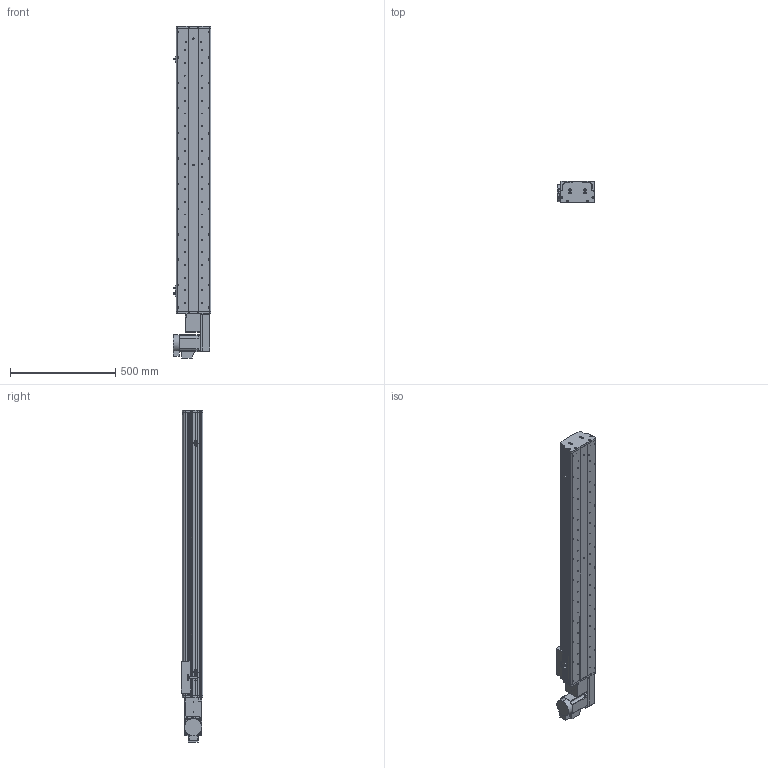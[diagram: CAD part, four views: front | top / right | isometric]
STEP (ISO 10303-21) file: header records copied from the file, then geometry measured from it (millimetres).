
FILE_DESCRIPTION (( 'STEP AP214' ), '1' );
FILE_NAME ('KSD165B-S1100-MRB-CM.STEP', '2017-10-16T08:59:25', ( '微软用户' ), ( '微软中国' ), 'SwSTEP 2.0', 'SolidWorks 2014', '' );
FILE_SCHEMA (( 'AUTOMOTIVE_DESIGN' ));
Length unit declared in the file: millimetre
Products named in the file (17): U倰嫖萇EEㄜSX672; 覜茼え68遵圉猾敕; KSD165模组-同步带-防撞垫2; KSD165模组同步带-防撞垫1; KSD165耀郪-ヶ傷啣1-肮祭湍; KSD165模组-后端板1-同步带; KSD165模组-同步带滑动座-最新版; KSD165B-S1100-MRB-CM; HTPA26S5M250-A-H8 750W萇儂蚚; HTPA26S5M250-A-H8 400W萇儂蚚 ; 130宽模组马达安装板连板左右折同步带; 130宽模组保护罩上下左右折-同步带; KSD165模组-同步带防尘盖1-1100行程; KSD165模组同步带底板-1100行程; 拸秶雄ん750W侜督萇儂; 165宽马达安装板同步带右; U倰嫖萇假蚾璃
Assembly tree (20 placements, depth 2):
  KSD165B-S1100-MRB-CM
    KSD165模组-同步带滑动座-最新版
    KSD165模组-后端板1-同步带
    KSD165耀郪-ヶ傷啣1-肮祭湍
    KSD165模组同步带-防撞垫1
    KSD165模组-同步带-防撞垫2
    覜茼え68遵圉猾敕
    U倰嫖萇EEㄜSX672  x3
    U倰嫖萇假蚾璃  x3
    165宽马达安装板同步带右
    拸秶雄ん750W侜督萇儂
    KSD165模组同步带底板-1100行程
    KSD165模组-同步带防尘盖1-1100行程
    130宽模组保护罩上下左右折-同步带
    130宽模组马达安装板连板左右折同步带
    HTPA26S5M250-A-H8 400W萇儂蚚 
    HTPA26S5M250-A-H8 750W萇儂蚚
Bounding box: 178.7 x 104 x 1577.5 mm (x, y, z)
Volume: 8366898.5 mm3; surface area: 1947378.4 mm2
Topology: 21 solids, 21 shells, 1989 faces, 5622 edges, 3672 vertices
Faces by surface type: cylinder 1287, plane 590, cone 112
Entity records: 64860 total; most frequent: CARTESIAN_POINT 13312, DIRECTION 10634, ORIENTED_EDGE 9904, EDGE_CURVE 4952, AXIS2_PLACEMENT_3D 4176, VERTEX_POINT 3264, CIRCLE 2384, VECTOR 2282
